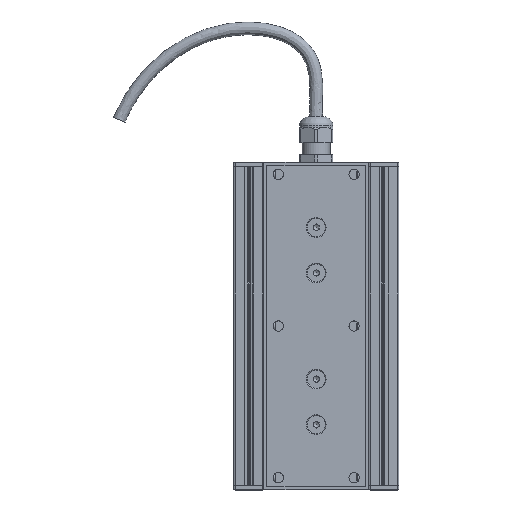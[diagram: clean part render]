
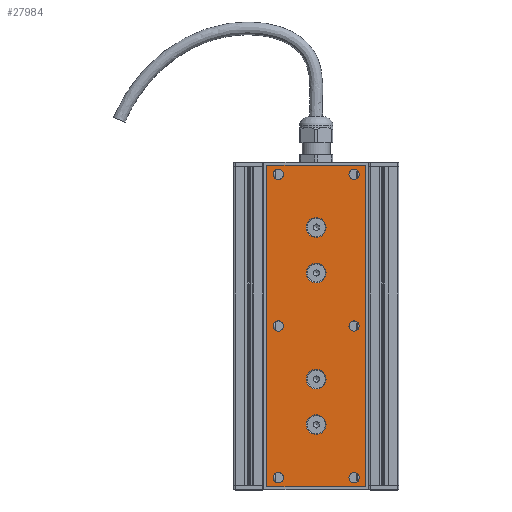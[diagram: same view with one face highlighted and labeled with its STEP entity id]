
A CAD part, top view. The second image highlights one B-rep face of the part: STEP entity #27984.
In plain terms, the highlighted planar face has unit normal (0, 0, 1).
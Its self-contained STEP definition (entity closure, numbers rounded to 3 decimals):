
#688=FACE_BOUND('',#9899,.T.);
#689=FACE_BOUND('',#9900,.T.);
#690=FACE_BOUND('',#9901,.T.);
#691=FACE_BOUND('',#9902,.T.);
#692=FACE_BOUND('',#9903,.T.);
#693=FACE_BOUND('',#9904,.T.);
#694=FACE_BOUND('',#9905,.T.);
#695=FACE_BOUND('',#9906,.T.);
#696=FACE_BOUND('',#9907,.T.);
#697=FACE_BOUND('',#9908,.T.);
#969=PLANE('',#31078);
#2284=LINE('',#45935,#5091);
#2287=LINE('',#45941,#5094);
#2290=LINE('',#45947,#5097);
#2293=LINE('',#45951,#5100);
#5091=VECTOR('',#35581,10.);
#5094=VECTOR('',#35586,10.);
#5097=VECTOR('',#35591,10.);
#5100=VECTOR('',#35596,10.);
#8528=FACE_OUTER_BOUND('',#9898,.T.);
#9898=EDGE_LOOP('',(#22704,#22705,#22706,#22707));
#9899=EDGE_LOOP('',(#22708));
#9900=EDGE_LOOP('',(#22709));
#9901=EDGE_LOOP('',(#22710));
#9902=EDGE_LOOP('',(#22711));
#9903=EDGE_LOOP('',(#22712));
#9904=EDGE_LOOP('',(#22713));
#9905=EDGE_LOOP('',(#22714));
#9906=EDGE_LOOP('',(#22715));
#9907=EDGE_LOOP('',(#22716));
#9908=EDGE_LOOP('',(#22717));
#11658=CIRCLE('',#31037,3.39);
#11660=CIRCLE('',#31040,3.39);
#11662=CIRCLE('',#31043,3.39);
#11664=CIRCLE('',#31046,3.39);
#11666=CIRCLE('',#31049,3.39);
#11668=CIRCLE('',#31052,3.39);
#11670=CIRCLE('',#31055,6.5);
#11673=CIRCLE('',#31060,6.5);
#11676=CIRCLE('',#31065,6.5);
#11679=CIRCLE('',#31070,6.5);
#13509=VERTEX_POINT('',#45853);
#13511=VERTEX_POINT('',#45859);
#13513=VERTEX_POINT('',#45865);
#13515=VERTEX_POINT('',#45871);
#13517=VERTEX_POINT('',#45877);
#13519=VERTEX_POINT('',#45883);
#13521=VERTEX_POINT('',#45889);
#13524=VERTEX_POINT('',#45899);
#13527=VERTEX_POINT('',#45909);
#13530=VERTEX_POINT('',#45919);
#13535=VERTEX_POINT('',#45932);
#13536=VERTEX_POINT('',#45934);
#13538=VERTEX_POINT('',#45940);
#13540=VERTEX_POINT('',#45946);
#17538=EDGE_CURVE('',#13509,#13509,#11658,.T.);
#17541=EDGE_CURVE('',#13511,#13511,#11660,.T.);
#17544=EDGE_CURVE('',#13513,#13513,#11662,.T.);
#17547=EDGE_CURVE('',#13515,#13515,#11664,.T.);
#17550=EDGE_CURVE('',#13517,#13517,#11666,.T.);
#17553=EDGE_CURVE('',#13519,#13519,#11668,.T.);
#17556=EDGE_CURVE('',#13521,#13521,#11670,.T.);
#17561=EDGE_CURVE('',#13524,#13524,#11673,.T.);
#17566=EDGE_CURVE('',#13527,#13527,#11676,.T.);
#17571=EDGE_CURVE('',#13530,#13530,#11679,.T.);
#17578=EDGE_CURVE('',#13536,#13535,#2284,.T.);
#17581=EDGE_CURVE('',#13538,#13536,#2287,.T.);
#17584=EDGE_CURVE('',#13540,#13538,#2290,.T.);
#17587=EDGE_CURVE('',#13535,#13540,#2293,.T.);
#22704=ORIENTED_EDGE('',*,*,#17587,.T.);
#22705=ORIENTED_EDGE('',*,*,#17584,.T.);
#22706=ORIENTED_EDGE('',*,*,#17581,.T.);
#22707=ORIENTED_EDGE('',*,*,#17578,.T.);
#22708=ORIENTED_EDGE('',*,*,#17538,.T.);
#22709=ORIENTED_EDGE('',*,*,#17541,.T.);
#22710=ORIENTED_EDGE('',*,*,#17544,.T.);
#22711=ORIENTED_EDGE('',*,*,#17547,.T.);
#22712=ORIENTED_EDGE('',*,*,#17550,.T.);
#22713=ORIENTED_EDGE('',*,*,#17553,.T.);
#22714=ORIENTED_EDGE('',*,*,#17556,.T.);
#22715=ORIENTED_EDGE('',*,*,#17561,.T.);
#22716=ORIENTED_EDGE('',*,*,#17566,.T.);
#22717=ORIENTED_EDGE('',*,*,#17571,.T.);
#27984=ADVANCED_FACE('',(#8528,#688,#689,#690,#691,#692,#693,#694,#695,
#696,#697),#969,.T.);
#31037=AXIS2_PLACEMENT_3D('',#45854,#35489,#35490);
#31040=AXIS2_PLACEMENT_3D('',#45860,#35496,#35497);
#31043=AXIS2_PLACEMENT_3D('',#45866,#35503,#35504);
#31046=AXIS2_PLACEMENT_3D('',#45872,#35510,#35511);
#31049=AXIS2_PLACEMENT_3D('',#45878,#35517,#35518);
#31052=AXIS2_PLACEMENT_3D('',#45884,#35524,#35525);
#31055=AXIS2_PLACEMENT_3D('',#45890,#35531,#35532);
#31060=AXIS2_PLACEMENT_3D('',#45900,#35543,#35544);
#31065=AXIS2_PLACEMENT_3D('',#45910,#35555,#35556);
#31070=AXIS2_PLACEMENT_3D('',#45920,#35567,#35568);
#31078=AXIS2_PLACEMENT_3D('',#45952,#35597,#35598);
#35489=DIRECTION('center_axis',(0.,0.,-1.));
#35490=DIRECTION('ref_axis',(1.,0.,0.));
#35496=DIRECTION('center_axis',(0.,0.,-1.));
#35497=DIRECTION('ref_axis',(1.,0.,0.));
#35503=DIRECTION('center_axis',(0.,0.,-1.));
#35504=DIRECTION('ref_axis',(1.,0.,0.));
#35510=DIRECTION('center_axis',(0.,0.,-1.));
#35511=DIRECTION('ref_axis',(1.,0.,0.));
#35517=DIRECTION('center_axis',(0.,0.,-1.));
#35518=DIRECTION('ref_axis',(1.,0.,0.));
#35524=DIRECTION('center_axis',(0.,0.,-1.));
#35525=DIRECTION('ref_axis',(1.,0.,0.));
#35531=DIRECTION('center_axis',(0.,0.,-1.));
#35532=DIRECTION('ref_axis',(1.,0.,0.));
#35543=DIRECTION('center_axis',(0.,0.,-1.));
#35544=DIRECTION('ref_axis',(1.,0.,0.));
#35555=DIRECTION('center_axis',(0.,0.,-1.));
#35556=DIRECTION('ref_axis',(1.,0.,0.));
#35567=DIRECTION('center_axis',(0.,0.,-1.));
#35568=DIRECTION('ref_axis',(1.,0.,0.));
#35581=DIRECTION('',(1.,0.,0.));
#35586=DIRECTION('',(0.,-1.,0.));
#35591=DIRECTION('',(-1.,0.,0.));
#35596=DIRECTION('',(0.,1.,0.));
#35597=DIRECTION('center_axis',(0.,0.,1.));
#35598=DIRECTION('ref_axis',(1.,0.,0.));
#45853=CARTESIAN_POINT('',(-28.39,100.,12.));
#45854=CARTESIAN_POINT('Origin',(-25.,100.,12.));
#45859=CARTESIAN_POINT('',(-28.39,0.,12.));
#45860=CARTESIAN_POINT('Origin',(-25.,0.,12.));
#45865=CARTESIAN_POINT('',(-28.39,-100.,12.));
#45866=CARTESIAN_POINT('Origin',(-25.,-100.,12.));
#45871=CARTESIAN_POINT('',(21.61,-100.,12.));
#45872=CARTESIAN_POINT('Origin',(25.,-100.,12.));
#45877=CARTESIAN_POINT('',(21.61,0.,12.));
#45878=CARTESIAN_POINT('Origin',(25.,0.,12.));
#45883=CARTESIAN_POINT('',(21.61,100.,12.));
#45884=CARTESIAN_POINT('Origin',(25.,100.,12.));
#45889=CARTESIAN_POINT('',(-6.5,-35.,12.));
#45890=CARTESIAN_POINT('Origin',(0.,-35.,12.));
#45899=CARTESIAN_POINT('',(-6.5,65.,12.));
#45900=CARTESIAN_POINT('Origin',(0.,65.,12.));
#45909=CARTESIAN_POINT('',(-6.5,35.,12.));
#45910=CARTESIAN_POINT('Origin',(0.,35.,12.));
#45919=CARTESIAN_POINT('',(-6.5,-65.,12.));
#45920=CARTESIAN_POINT('Origin',(0.,-65.,12.));
#45932=CARTESIAN_POINT('',(32.5,-106.,12.));
#45934=CARTESIAN_POINT('',(-32.5,-106.,12.));
#45935=CARTESIAN_POINT('',(-32.5,-106.,12.));
#45940=CARTESIAN_POINT('',(-32.5,106.,12.));
#45941=CARTESIAN_POINT('',(-32.5,106.,12.));
#45946=CARTESIAN_POINT('',(32.5,106.,12.));
#45947=CARTESIAN_POINT('',(32.5,106.,12.));
#45951=CARTESIAN_POINT('',(32.5,-106.,12.));
#45952=CARTESIAN_POINT('Origin',(0.,0.,12.));
